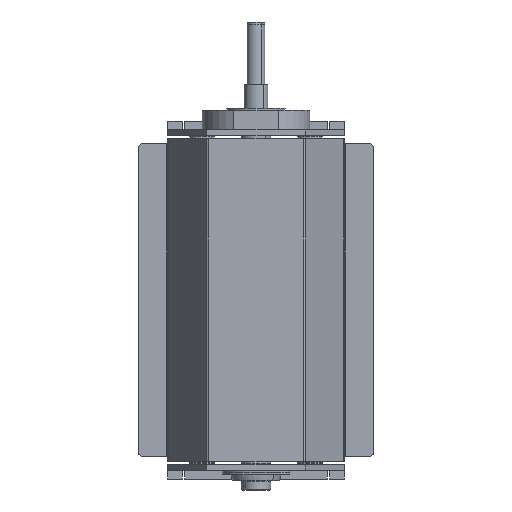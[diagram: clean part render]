
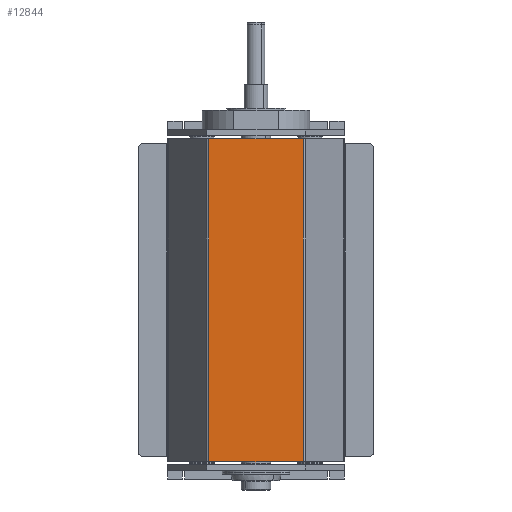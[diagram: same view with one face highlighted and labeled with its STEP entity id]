
A CAD part, front view. The second image highlights one B-rep face of the part: STEP entity #12844.
In plain terms, the highlighted planar face has unit normal (0, -1, 0).
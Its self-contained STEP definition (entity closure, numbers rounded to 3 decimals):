
#866 = ORIENTED_EDGE ( 'NONE', *, *, #21753, .T. ) ;
#1083 = CARTESIAN_POINT ( 'NONE',  ( 48.268, 0., 164.5 ) ) ;
#1424 = VERTEX_POINT ( 'NONE', #15685 ) ;
#1582 = PLANE ( 'NONE',  #12884 ) ;
#1891 = CARTESIAN_POINT ( 'NONE',  ( -48.268, 0., 164.5 ) ) ;
#3788 = VERTEX_POINT ( 'NONE', #5988 ) ;
#4844 = VECTOR ( 'NONE', #12522, 1000. ) ;
#5085 = VECTOR ( 'NONE', #19584, 1000. ) ;
#5988 = CARTESIAN_POINT ( 'NONE',  ( 48.268, 0., -164.5 ) ) ;
#6007 = EDGE_CURVE ( 'NONE', #20073, #3788, #6668, .T. ) ;
#6308 = VERTEX_POINT ( 'NONE', #1891 ) ;
#6668 = LINE ( 'NONE', #1083, #5085 ) ;
#6737 = LINE ( 'NONE', #21132, #17567 ) ;
#7326 = ORIENTED_EDGE ( 'NONE', *, *, #6007, .F. ) ;
#8056 = EDGE_CURVE ( 'NONE', #6308, #1424, #9780, .T. ) ;
#8268 = EDGE_LOOP ( 'NONE', ( #866, #7326, #20782, #14384 ) ) ;
#8294 = DIRECTION ( 'NONE',  ( -1., 0., 0. ) ) ;
#9405 = CARTESIAN_POINT ( 'NONE',  ( 48.268, 0., 164.5 ) ) ;
#9780 = LINE ( 'NONE', #13339, #15337 ) ;
#12522 = DIRECTION ( 'NONE',  ( 1., 0., 0. ) ) ;
#12844 = ADVANCED_FACE ( 'NONE', ( #18300 ), #1582, .F. ) ;
#12884 = AXIS2_PLACEMENT_3D ( 'NONE', #15172, #15306, #8294 ) ;
#13264 = DIRECTION ( 'NONE',  ( 0., 0., -1. ) ) ;
#13339 = CARTESIAN_POINT ( 'NONE',  ( -48.268, 0., 164.5 ) ) ;
#14384 = ORIENTED_EDGE ( 'NONE', *, *, #8056, .T. ) ;
#15172 = CARTESIAN_POINT ( 'NONE',  ( -50., 0., 164.5 ) ) ;
#15306 = DIRECTION ( 'NONE',  ( 0., 1., 0. ) ) ;
#15337 = VECTOR ( 'NONE', #13264, 1000. ) ;
#15685 = CARTESIAN_POINT ( 'NONE',  ( -48.268, 0., -164.5 ) ) ;
#15704 = CARTESIAN_POINT ( 'NONE',  ( -50., 0., -164.5 ) ) ;
#17567 = VECTOR ( 'NONE', #21165, 1000. ) ;
#18300 = FACE_OUTER_BOUND ( 'NONE', #8268, .T. ) ;
#19584 = DIRECTION ( 'NONE',  ( 0., 0., -1. ) ) ;
#19980 = LINE ( 'NONE', #15704, #4844 ) ;
#20073 = VERTEX_POINT ( 'NONE', #9405 ) ;
#20619 = EDGE_CURVE ( 'NONE', #6308, #20073, #6737, .T. ) ;
#20782 = ORIENTED_EDGE ( 'NONE', *, *, #20619, .F. ) ;
#21132 = CARTESIAN_POINT ( 'NONE',  ( -50., 0., 164.5 ) ) ;
#21165 = DIRECTION ( 'NONE',  ( 1., 0., 0. ) ) ;
#21753 = EDGE_CURVE ( 'NONE', #1424, #3788, #19980, .T. ) ;
